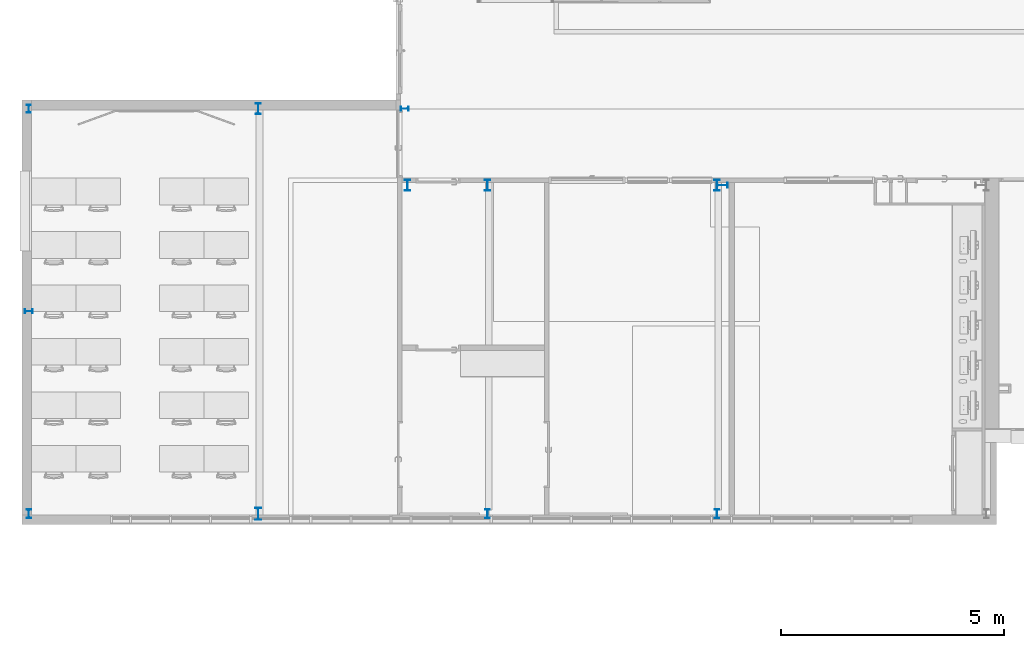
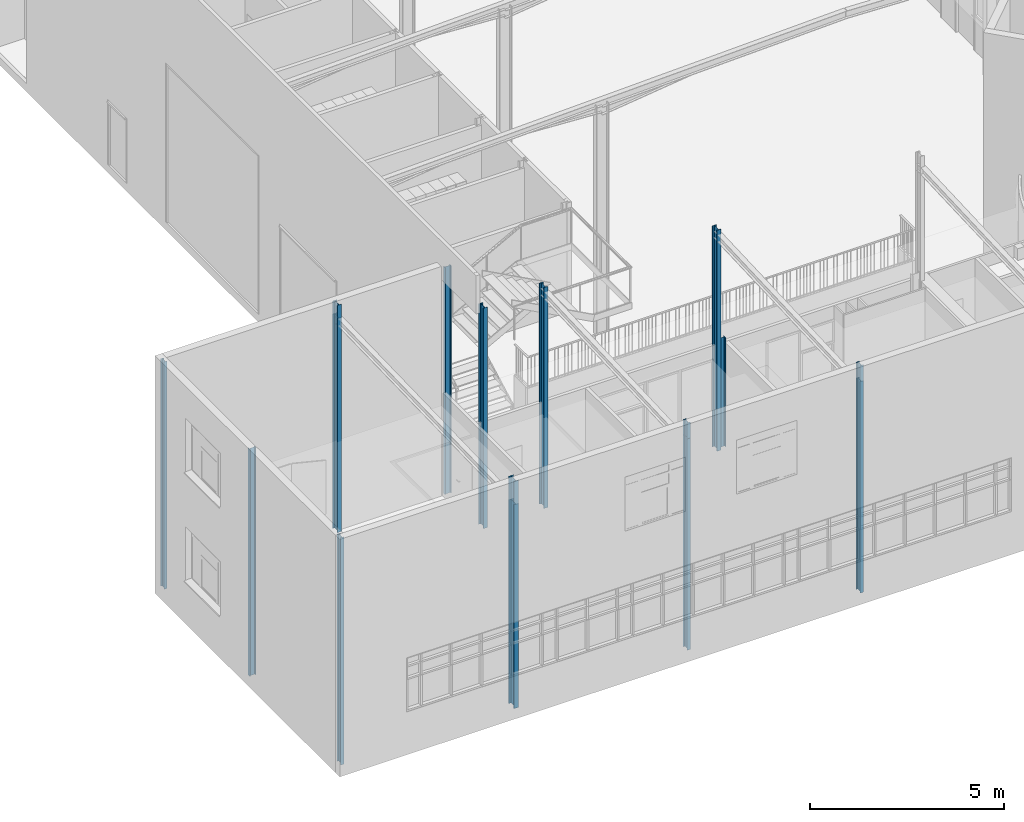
# One storey, part 1 of 137: 16 columns.
"""IFC2X3 building model written with IfcOpenShell, lengths in centimetres."""

from ifc_helpers import new_model, entity, si_unit, converted_unit, derived_unit, direction, frame, frame_2d, origin, place, context, subcontext, project, spatial, polyline, circle_curve, parameter, trimmed, segment, composite_curve, outline, extrude, source, transform, mapped, material, type_object, type_shapes, element, save


model = new_model("IFC2X3")

# Units and contexts
model_context = context("Model", 3, precision=0.001, world=origin(), true_north=direction((6.12303176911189e-17, 1.0)))
body_context = subcontext(model_context, "Body", "Model", "MODEL_VIEW")
ifc_project = project(units=[si_unit("LENGTHUNIT", "METRE", prefix="CENTI"), si_unit("AREAUNIT", "SQUARE_METRE"), si_unit("VOLUMEUNIT", "CUBIC_METRE"), converted_unit("PLANEANGLEUNIT", "DEGREE", entity("IfcRatioMeasure", 0.0174532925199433), si_unit("PLANEANGLEUNIT", "RADIAN"), dimensions=[0, 0, 0, 0, 0, 0, 0]), si_unit("MASSUNIT", "GRAM", prefix="KILO"), si_unit("TIMEUNIT", "SECOND"), si_unit("FREQUENCYUNIT", "HERTZ"), si_unit("THERMODYNAMICTEMPERATUREUNIT", "DEGREE_CELSIUS"), derived_unit("THERMALTRANSMITTANCEUNIT", [(si_unit("MASSUNIT", "GRAM", prefix="KILO"), 1), (si_unit("THERMODYNAMICTEMPERATUREUNIT", "KELVIN"), -1), (si_unit("TIMEUNIT", "SECOND"), -3)]), derived_unit("VOLUMETRICFLOWRATEUNIT", [(si_unit("LENGTHUNIT", "METRE"), 3), (si_unit("TIMEUNIT", "SECOND"), -1)]), si_unit("ELECTRICCURRENTUNIT", "AMPERE"), si_unit("ELECTRICVOLTAGEUNIT", "VOLT"), si_unit("POWERUNIT", "WATT"), si_unit("FORCEUNIT", "NEWTON", prefix="KILO"), si_unit("ILLUMINANCEUNIT", "LUX"), si_unit("LUMINOUSFLUXUNIT", "LUMEN"), si_unit("LUMINOUSINTENSITYUNIT", "CANDELA"), derived_unit("USERDEFINED", [(si_unit("MASSUNIT", "GRAM", prefix="KILO"), -1), (si_unit("LENGTHUNIT", "METRE"), -2), (si_unit("TIMEUNIT", "SECOND"), 3), (si_unit("LUMINOUSFLUXUNIT", "LUMEN"), 1)]), derived_unit("LINEARVELOCITYUNIT", [(si_unit("LENGTHUNIT", "METRE"), 1), (si_unit("TIMEUNIT", "SECOND"), -1)]), si_unit("PRESSUREUNIT", "PASCAL"), derived_unit("USERDEFINED", [(si_unit("LENGTHUNIT", "METRE"), -2), (si_unit("MASSUNIT", "GRAM", prefix="KILO"), 1), (si_unit("TIMEUNIT", "SECOND"), -2)])], contexts=[model_context])

# Site, building, storey
site_placement = place(None, frame((8.62739174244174, -249.285249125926, 0.0)))
site = spatial("IfcSite", under=ifc_project, at=site_placement, Name="Default", CompositionType="ELEMENT")
building_placement = place(site_placement, origin())
building = spatial("IfcBuilding", under=site, at=building_placement, CompositionType="ELEMENT")
storey_placement = place(building_placement, origin())
storey = spatial("IfcBuildingStorey", under=building, at=storey_placement, Name="RDC", CompositionType="ELEMENT", Elevation=-8.82465566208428e-11)

# Columns
ifc_material = material(Name="Acier, 45-345")
column_type_1 = type_object("IfcColumnType", Name="IPE240", PredefinedType="COLUMN", material=ifc_material)
shared_shape_1 = source(origin(), body_context, "Body", "SweptSolid", [
    extrude(outline(composite_curve([segment(polyline([(11.1, -6.0), (12.0, -6.0)]), True, "CONTINUOUS"), segment(polyline([(12.0, -6.0), (12.0, 6.0)]), True, "CONTINUOUS"), segment(polyline([(12.0, 6.0), (11.1, 6.0)]), True, "CONTINUOUS"), segment(polyline([(11.1, 6.0), (11.1, 1.8)]), True, "CONTINUOUS"), segment(trimmed(circle_curve(frame_2d((9.6, 1.79999999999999), x_axis=(1.0, 0.0)), 1.49999999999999), [parameter(269.999999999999)], [parameter(0.0)], True, "PARAMETER"), False, "CONTINUOUS"), segment(polyline([(9.6, 0.3), (-9.59999999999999, 0.3)]), True, "CONTINUOUS"), segment(trimmed(circle_curve(frame_2d((-9.59999999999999, 1.8), x_axis=(0.0, -1.0)), 1.5), [parameter(270.0)], [parameter(0.0)], True, "PARAMETER"), False, "CONTINUOUS"), segment(polyline([(-11.1, 1.8), (-11.1, 6.0)]), True, "CONTINUOUS"), segment(polyline([(-11.1, 6.0), (-12.0, 6.0)]), True, "CONTINUOUS"), segment(polyline([(-12.0, 6.0), (-12.0, -6.0)]), True, "CONTINUOUS"), segment(polyline([(-12.0, -6.0), (-11.1, -6.0)]), True, "CONTINUOUS"), segment(polyline([(-11.1, -6.0), (-11.1, -1.8)]), True, "CONTINUOUS"), segment(trimmed(circle_curve(frame_2d((-9.59999999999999, -1.8), x_axis=(-1.0, 0.0)), 1.5), [parameter(270.0)], [parameter(0.0)], True, "PARAMETER"), False, "CONTINUOUS"), segment(polyline([(-9.6, -0.3), (9.6, -0.3)]), True, "CONTINUOUS"), segment(trimmed(circle_curve(frame_2d((9.6, -1.8), x_axis=(0.0, 1.0)), 1.5), [parameter(270.0)], [parameter(0.0)], True, "PARAMETER"), False, "CONTINUOUS"), segment(polyline([(11.1, -1.8), (11.1, -6.0)]), True, "CONTINUOUS")], self_intersect=False)), frame((0.0, 0.0, 0.0), z_axis=(0.0, 0.0, 1.0), x_axis=(0.0, -1.0, 0.0)), (0.0, 0.0, 1.0), 715.0),
])
type_shapes(column_type_1, [shared_shape_1])
column_1_placement = place(storey_placement, frame((530.900000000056, 933.980208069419, 0.0), z_axis=(0.0, 0.0, 1.0), x_axis=(-1.0, 0.0, 0.0)))
element("IfcColumn", 1, at=column_1_placement, inside=storey, type_object=column_type_1, material=ifc_material, Name="IPE-240-120:IPE240", ObjectType="IPE240", context=body_context, shape_type="MappedRepresentation", body=[
    mapped(shared_shape_1, transform((0.0, 0.0, 0.0), scale=1.0)),
])
column_type_2 = type_object("IfcColumnType", Name="IPE 180", PredefinedType="COLUMN", material=ifc_material)
shared_shape_2 = source(origin(), body_context, "Body", "SweptSolid", [
    extrude(outline(composite_curve([segment(polyline([(8.1, -4.5), (9.0, -4.5)]), True, "CONTINUOUS"), segment(polyline([(9.0, -4.5), (9.0, 4.5)]), True, "CONTINUOUS"), segment(polyline([(9.0, 4.5), (8.1, 4.5)]), True, "CONTINUOUS"), segment(polyline([(8.1, 4.5), (8.1, 1.8)]), True, "CONTINUOUS"), segment(trimmed(circle_curve(frame_2d((6.6, 1.8), x_axis=(1.0, 0.0)), 1.5), [parameter(270.0)], [parameter(0.0)], True, "PARAMETER"), False, "CONTINUOUS"), segment(polyline([(6.60000000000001, 0.300000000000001), (-6.6, 0.300000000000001)]), True, "CONTINUOUS"), segment(trimmed(circle_curve(frame_2d((-6.6, 1.8), x_axis=(0.0, -1.0)), 1.5), [parameter(270.0)], [parameter(0.0)], True, "PARAMETER"), False, "CONTINUOUS"), segment(polyline([(-8.1, 1.8), (-8.1, 4.5)]), True, "CONTINUOUS"), segment(polyline([(-8.1, 4.5), (-9.0, 4.5)]), True, "CONTINUOUS"), segment(polyline([(-9.0, 4.5), (-9.0, -4.5)]), True, "CONTINUOUS"), segment(polyline([(-9.0, -4.5), (-8.1, -4.5)]), True, "CONTINUOUS"), segment(polyline([(-8.1, -4.5), (-8.1, -1.8)]), True, "CONTINUOUS"), segment(trimmed(circle_curve(frame_2d((-6.6, -1.8), x_axis=(-1.0, 0.0)), 1.5), [parameter(270.0)], [parameter(0.0)], True, "PARAMETER"), False, "CONTINUOUS"), segment(polyline([(-6.6, -0.3), (6.6, -0.3)]), True, "CONTINUOUS"), segment(trimmed(circle_curve(frame_2d((6.6, -1.8), x_axis=(0.0, 1.0)), 1.5), [parameter(270.0)], [parameter(0.0)], True, "PARAMETER"), False, "CONTINUOUS"), segment(polyline([(8.1, -1.8), (8.1, -4.5)]), True, "CONTINUOUS")], self_intersect=False)), frame((0.0, 0.0, 0.0), z_axis=(0.0, 0.0, 1.0), x_axis=(0.0, -1.0, 0.0)), (0.0, 0.0, 1.0), 715.0),
])
type_shapes(column_type_2, [shared_shape_2])
for number, where, z_axis, x_axis, name in (
    (2, (15.9000000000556, 933.980208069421, 0.0), (0.0, 0.0, 1.0), (-1.0, 0.0, 0.0), "IPE-180-90:IPE 180"),
    (3, (15.9000000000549, 478.980208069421, 0.0), (0.0, 0.0, 1.0), (0.0, 1.0, 0.0), "IPE-180-90:IPE 180"),
):
    element("IfcColumn", number, at=place(storey_placement, frame(where, z_axis=z_axis, x_axis=x_axis)), inside=storey, type_object=column_type_2, material=ifc_material, Name=name, ObjectType="IPE 180", context=body_context, shape_type="MappedRepresentation", body=[
        mapped(shared_shape_2, transform((0.0, 0.0, 0.0), scale=1.0)),
    ])
column_type_3 = type_object("IfcColumnType", Name="IPE200", PredefinedType="COLUMN", material=ifc_material)
shared_shape_3 = source(origin(), body_context, "Body", "SweptSolid", [
    extrude(outline(composite_curve([segment(polyline([(9.1, -5.0), (10.0, -5.0)]), True, "CONTINUOUS"), segment(polyline([(10.0, -5.0), (10.0, 5.0)]), True, "CONTINUOUS"), segment(polyline([(10.0, 5.0), (9.1, 5.0)]), True, "CONTINUOUS"), segment(polyline([(9.1, 5.0), (9.1, 1.8)]), True, "CONTINUOUS"), segment(trimmed(circle_curve(frame_2d((7.6, 1.8), x_axis=(1.0, 0.0)), 1.5), [parameter(270.0)], [parameter(0.0)], True, "PARAMETER"), False, "CONTINUOUS"), segment(polyline([(7.60000000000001, 0.3), (-7.6, 0.3)]), True, "CONTINUOUS"), segment(trimmed(circle_curve(frame_2d((-7.6, 1.8), x_axis=(0.0, -1.0)), 1.5), [parameter(270.0)], [parameter(0.0)], True, "PARAMETER"), False, "CONTINUOUS"), segment(polyline([(-9.1, 1.8), (-9.1, 5.0)]), True, "CONTINUOUS"), segment(polyline([(-9.1, 5.0), (-10.0, 5.0)]), True, "CONTINUOUS"), segment(polyline([(-10.0, 5.0), (-10.0, -5.0)]), True, "CONTINUOUS"), segment(polyline([(-10.0, -5.0), (-9.1, -5.0)]), True, "CONTINUOUS"), segment(polyline([(-9.1, -5.0), (-9.1, -1.8)]), True, "CONTINUOUS"), segment(trimmed(circle_curve(frame_2d((-7.6, -1.8), x_axis=(-1.0, 0.0)), 1.5), [parameter(270.0)], [parameter(0.0)], True, "PARAMETER"), False, "CONTINUOUS"), segment(polyline([(-7.6, -0.3), (7.6, -0.3)]), True, "CONTINUOUS"), segment(trimmed(circle_curve(frame_2d((7.6, -1.8), x_axis=(0.0, 1.0)), 1.5), [parameter(270.0)], [parameter(0.0)], True, "PARAMETER"), False, "CONTINUOUS"), segment(polyline([(9.1, -1.8), (9.1, -5.0)]), True, "CONTINUOUS")], self_intersect=False)), frame((0.0, 0.0, 0.0), z_axis=(0.0, 0.0, 1.0), x_axis=(0.0, -1.0, 0.0)), (0.0, 0.0, 1.0), 715.0),
])
type_shapes(column_type_3, [shared_shape_3])
for number, where in (
    (4, (15.9000000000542, 23.9802080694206, 0.0)),
    (5, (1045.90000000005, 23.9802080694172, 0.0)),
    (6, (1560.90000000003, 23.9802080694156, 0.0)),
):
    element("IfcColumn", number, at=place(storey_placement, frame(where)), inside=storey, type_object=column_type_3, material=ifc_material, Name="IPE-200-100:IPE200", ObjectType="IPE200", context=body_context, shape_type="MappedRepresentation", body=[
        mapped(shared_shape_3, transform((0.0, 0.0, 0.0), scale=1.0)),
    ])
column_type_4 = type_object("IfcColumnType", Name="IPE 270", PredefinedType="COLUMN", material=ifc_material)
shared_shape_4 = source(origin(), body_context, "Body", "SweptSolid", [
    extrude(outline(composite_curve([segment(polyline([(12.6, -6.75), (13.5, -6.75)]), True, "CONTINUOUS"), segment(polyline([(13.5, -6.75), (13.5, 6.75)]), True, "CONTINUOUS"), segment(polyline([(13.5, 6.75), (12.6, 6.75)]), True, "CONTINUOUS"), segment(polyline([(12.6, 6.75), (12.6, 1.8)]), True, "CONTINUOUS"), segment(trimmed(circle_curve(frame_2d((11.1, 1.8), x_axis=(1.0, 0.0)), 1.5), [parameter(270.0)], [parameter(0.0)], True, "PARAMETER"), False, "CONTINUOUS"), segment(polyline([(11.1, 0.3), (-11.1, 0.3)]), True, "CONTINUOUS"), segment(trimmed(circle_curve(frame_2d((-11.1, 1.8), x_axis=(0.0, -1.0)), 1.5), [parameter(270.0)], [parameter(0.0)], True, "PARAMETER"), False, "CONTINUOUS"), segment(polyline([(-12.6, 1.8), (-12.6, 6.75)]), True, "CONTINUOUS"), segment(polyline([(-12.6, 6.75), (-13.5, 6.75)]), True, "CONTINUOUS"), segment(polyline([(-13.5, 6.75), (-13.5, -6.75)]), True, "CONTINUOUS"), segment(polyline([(-13.5, -6.75), (-12.6, -6.75)]), True, "CONTINUOUS"), segment(polyline([(-12.6, -6.75), (-12.6, -1.8)]), True, "CONTINUOUS"), segment(trimmed(circle_curve(frame_2d((-11.1, -1.8), x_axis=(-1.0, 0.0)), 1.5), [parameter(270.0)], [parameter(0.0)], True, "PARAMETER"), False, "CONTINUOUS"), segment(polyline([(-11.1, -0.3), (11.1, -0.3)]), True, "CONTINUOUS"), segment(trimmed(circle_curve(frame_2d((11.1, -1.8), x_axis=(0.0, 1.0)), 1.5), [parameter(270.0)], [parameter(0.0)], True, "PARAMETER"), False, "CONTINUOUS"), segment(polyline([(12.6, -1.8), (12.6, -6.75)]), True, "CONTINUOUS")], self_intersect=False)), frame((0.0, 0.0, 0.0), z_axis=(0.0, 0.0, 1.0), x_axis=(0.0, -1.0, 0.0)), (0.0, 0.0, 1.0), 715.0),
])
type_shapes(column_type_4, [shared_shape_4])
column_2_placement = place(storey_placement, frame((530.900000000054, 23.9802080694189, 0.0)))
element("IfcColumn", 7, at=column_2_placement, inside=storey, type_object=column_type_4, material=ifc_material, Name="IPE-270-135:IPE 270", ObjectType="IPE 270", context=body_context, shape_type="MappedRepresentation", body=[
    mapped(shared_shape_4, transform((0.0, 0.0, 0.0), scale=1.0)),
])
column_type_5 = type_object("IfcColumnType", Name="HEA160", PredefinedType="COLUMN", material=ifc_material)
shared_shape_5 = source(origin(), body_context, "Body", "SweptSolid", [
    extrude(outline(composite_curve([segment(polyline([(11.1, -6.0), (12.0, -6.0)]), True, "CONTINUOUS"), segment(polyline([(12.0, -6.0), (12.0, 6.0)]), True, "CONTINUOUS"), segment(polyline([(12.0, 6.0), (11.1, 6.0)]), True, "CONTINUOUS"), segment(polyline([(11.1, 6.0), (11.1, 1.8)]), True, "CONTINUOUS"), segment(trimmed(circle_curve(frame_2d((9.6, 1.79999999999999), x_axis=(1.0, 0.0)), 1.49999999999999), [parameter(269.999999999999)], [parameter(0.0)], True, "PARAMETER"), False, "CONTINUOUS"), segment(polyline([(9.6, 0.3), (-9.59999999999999, 0.3)]), True, "CONTINUOUS"), segment(trimmed(circle_curve(frame_2d((-9.59999999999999, 1.8), x_axis=(0.0, -1.0)), 1.5), [parameter(270.0)], [parameter(0.0)], True, "PARAMETER"), False, "CONTINUOUS"), segment(polyline([(-11.1, 1.8), (-11.1, 6.0)]), True, "CONTINUOUS"), segment(polyline([(-11.1, 6.0), (-12.0, 6.0)]), True, "CONTINUOUS"), segment(polyline([(-12.0, 6.0), (-12.0, -6.0)]), True, "CONTINUOUS"), segment(polyline([(-12.0, -6.0), (-11.1, -6.0)]), True, "CONTINUOUS"), segment(polyline([(-11.1, -6.0), (-11.1, -1.8)]), True, "CONTINUOUS"), segment(trimmed(circle_curve(frame_2d((-9.59999999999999, -1.8), x_axis=(-1.0, 0.0)), 1.5), [parameter(270.0)], [parameter(0.0)], True, "PARAMETER"), False, "CONTINUOUS"), segment(polyline([(-9.6, -0.3), (9.6, -0.3)]), True, "CONTINUOUS"), segment(trimmed(circle_curve(frame_2d((9.6, -1.8), x_axis=(0.0, 1.0)), 1.5), [parameter(270.0)], [parameter(0.0)], True, "PARAMETER"), False, "CONTINUOUS"), segment(polyline([(11.1, -1.8), (11.1, -6.0)]), True, "CONTINUOUS")], self_intersect=False)), frame((0.0, 0.0, 0.0), z_axis=(0.0, 0.0, 1.0), x_axis=(0.0, -1.0, 0.0)), (0.0, 0.0, 1.0), 343.0),
])
type_shapes(column_type_5, [shared_shape_5])
column_3_placement = place(storey_placement, frame((1573.20000000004, 761.980208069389, 0.0), z_axis=(0.0, 0.0, 1.0), x_axis=(0.0, 1.0, 0.0)))
element("IfcColumn", 8, at=column_3_placement, inside=storey, type_object=column_type_5, material=ifc_material, Name="IPE-240-120:HEA160", ObjectType="HEA160", context=body_context, shape_type="MappedRepresentation", body=[
    mapped(shared_shape_5, transform((0.0, 0.0, 0.0), scale=1.0)),
])
column_type_6 = type_object("IfcColumnType", Name="HEA160", PredefinedType="COLUMN", material=ifc_material)
shared_shape_6 = source(origin(), body_context, "Body", "SweptSolid", [
    extrude(outline(composite_curve([segment(polyline([(11.1, -6.0), (12.0, -6.0)]), True, "CONTINUOUS"), segment(polyline([(12.0, -6.0), (12.0, 6.0)]), True, "CONTINUOUS"), segment(polyline([(12.0, 6.0), (11.1, 6.0)]), True, "CONTINUOUS"), segment(polyline([(11.1, 6.0), (11.1, 1.8)]), True, "CONTINUOUS"), segment(trimmed(circle_curve(frame_2d((9.6, 1.79999999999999), x_axis=(1.0, 0.0)), 1.49999999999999), [parameter(269.999999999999)], [parameter(0.0)], True, "PARAMETER"), False, "CONTINUOUS"), segment(polyline([(9.6, 0.3), (-9.59999999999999, 0.3)]), True, "CONTINUOUS"), segment(trimmed(circle_curve(frame_2d((-9.59999999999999, 1.8), x_axis=(0.0, -1.0)), 1.5), [parameter(270.0)], [parameter(0.0)], True, "PARAMETER"), False, "CONTINUOUS"), segment(polyline([(-11.1, 1.8), (-11.1, 6.0)]), True, "CONTINUOUS"), segment(polyline([(-11.1, 6.0), (-12.0, 6.0)]), True, "CONTINUOUS"), segment(polyline([(-12.0, 6.0), (-12.0, -6.0)]), True, "CONTINUOUS"), segment(polyline([(-12.0, -6.0), (-11.1, -6.0)]), True, "CONTINUOUS"), segment(polyline([(-11.1, -6.0), (-11.1, -1.8)]), True, "CONTINUOUS"), segment(trimmed(circle_curve(frame_2d((-9.59999999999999, -1.8), x_axis=(-1.0, 0.0)), 1.5), [parameter(270.0)], [parameter(0.0)], True, "PARAMETER"), False, "CONTINUOUS"), segment(polyline([(-9.6, -0.3), (9.6, -0.3)]), True, "CONTINUOUS"), segment(trimmed(circle_curve(frame_2d((9.6, -1.8), x_axis=(0.0, 1.0)), 1.5), [parameter(270.0)], [parameter(0.0)], True, "PARAMETER"), False, "CONTINUOUS"), segment(polyline([(11.1, -1.8), (11.1, -6.0)]), True, "CONTINUOUS")], self_intersect=False)), frame((0.0, 0.0, 0.0), z_axis=(0.0, 0.0, 1.0), x_axis=(0.0, -1.0, 0.0)), (0.0, 0.0, 1.0), 695.0),
])
type_shapes(column_type_6, [shared_shape_6])
for number, where, z_axis, x_axis in (
    (9, (1560.90000000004, 761.980208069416, 0.0), (0.0, 0.0, 1.0), (-1.0, 0.0, 0.0)),
    (10, (1045.90000000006, 761.980208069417, 0.0), (0.0, 0.0, 1.0), (-1.0, 0.0, 0.0)),
):
    element("IfcColumn", number, at=place(storey_placement, frame(where, z_axis=z_axis, x_axis=x_axis)), inside=storey, type_object=column_type_6, material=ifc_material, Name="IPE-240-120:HEA160", ObjectType="HEA160", context=body_context, shape_type="MappedRepresentation", body=[
        mapped(shared_shape_6, transform((0.0, 0.0, 0.0), scale=1.0)),
    ])
column_type_7 = type_object("IfcColumnType", Name="HEA160", PredefinedType="COLUMN", material=ifc_material)
shared_shape_7 = source(origin(), body_context, "Body", "SweptSolid", [
    extrude(outline(composite_curve([segment(polyline([(11.1, -6.0), (12.0, -6.0)]), True, "CONTINUOUS"), segment(polyline([(12.0, -6.0), (12.0, 6.0)]), True, "CONTINUOUS"), segment(polyline([(12.0, 6.0), (11.1, 6.0)]), True, "CONTINUOUS"), segment(polyline([(11.1, 6.0), (11.1, 1.8)]), True, "CONTINUOUS"), segment(trimmed(circle_curve(frame_2d((9.6, 1.79999999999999), x_axis=(1.0, 0.0)), 1.49999999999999), [parameter(269.999999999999)], [parameter(0.0)], True, "PARAMETER"), False, "CONTINUOUS"), segment(polyline([(9.6, 0.3), (-9.59999999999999, 0.3)]), True, "CONTINUOUS"), segment(trimmed(circle_curve(frame_2d((-9.59999999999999, 1.8), x_axis=(0.0, -1.0)), 1.5), [parameter(270.0)], [parameter(0.0)], True, "PARAMETER"), False, "CONTINUOUS"), segment(polyline([(-11.1, 1.8), (-11.1, 6.0)]), True, "CONTINUOUS"), segment(polyline([(-11.1, 6.0), (-12.0, 6.0)]), True, "CONTINUOUS"), segment(polyline([(-12.0, 6.0), (-12.0, -6.0)]), True, "CONTINUOUS"), segment(polyline([(-12.0, -6.0), (-11.1, -6.0)]), True, "CONTINUOUS"), segment(polyline([(-11.1, -6.0), (-11.1, -1.8)]), True, "CONTINUOUS"), segment(trimmed(circle_curve(frame_2d((-9.59999999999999, -1.8), x_axis=(-1.0, 0.0)), 1.5), [parameter(270.0)], [parameter(0.0)], True, "PARAMETER"), False, "CONTINUOUS"), segment(polyline([(-9.6, -0.3), (9.6, -0.3)]), True, "CONTINUOUS"), segment(trimmed(circle_curve(frame_2d((9.6, -1.8), x_axis=(0.0, 1.0)), 1.5), [parameter(270.0)], [parameter(0.0)], True, "PARAMETER"), False, "CONTINUOUS"), segment(polyline([(11.1, -1.8), (11.1, -6.0)]), True, "CONTINUOUS")], self_intersect=False)), frame((0.0, 0.0, 0.0), z_axis=(0.0, 0.0, 1.0), x_axis=(0.0, -1.0, 0.0)), (0.0, 0.0, 1.0), 674.0),
])
type_shapes(column_type_7, [shared_shape_7])
column_4_placement = place(storey_placement, frame((530.900000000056, 933.980208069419, 0.0), z_axis=(0.0, 0.0, 1.0), x_axis=(-1.0, 0.0, 0.0)))
element("IfcColumn", 11, at=column_4_placement, inside=storey, type_object=column_type_7, material=ifc_material, Name="IPE-240-120:HEA160", ObjectType="HEA160", context=body_context, shape_type="MappedRepresentation", body=[
    mapped(shared_shape_7, transform((0.0, 0.0, 0.0), scale=1.0)),
])
column_type_8 = type_object("IfcColumnType", Name="HEA160", PredefinedType="COLUMN", material=ifc_material)
shared_shape_8 = source(origin(), body_context, "Body", "SweptSolid", [
    extrude(outline(composite_curve([segment(polyline([(11.1, -6.0), (12.0, -6.0)]), True, "CONTINUOUS"), segment(polyline([(12.0, -6.0), (12.0, 6.0)]), True, "CONTINUOUS"), segment(polyline([(12.0, 6.0), (11.1, 6.0)]), True, "CONTINUOUS"), segment(polyline([(11.1, 6.0), (11.1, 1.8)]), True, "CONTINUOUS"), segment(trimmed(circle_curve(frame_2d((9.6, 1.79999999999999), x_axis=(1.0, 0.0)), 1.49999999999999), [parameter(269.999999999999)], [parameter(0.0)], True, "PARAMETER"), False, "CONTINUOUS"), segment(polyline([(9.6, 0.3), (-9.59999999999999, 0.3)]), True, "CONTINUOUS"), segment(trimmed(circle_curve(frame_2d((-9.59999999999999, 1.8), x_axis=(0.0, -1.0)), 1.5), [parameter(270.0)], [parameter(0.0)], True, "PARAMETER"), False, "CONTINUOUS"), segment(polyline([(-11.1, 1.8), (-11.1, 6.0)]), True, "CONTINUOUS"), segment(polyline([(-11.1, 6.0), (-12.0, 6.0)]), True, "CONTINUOUS"), segment(polyline([(-12.0, 6.0), (-12.0, -6.0)]), True, "CONTINUOUS"), segment(polyline([(-12.0, -6.0), (-11.1, -6.0)]), True, "CONTINUOUS"), segment(polyline([(-11.1, -6.0), (-11.1, -1.8)]), True, "CONTINUOUS"), segment(trimmed(circle_curve(frame_2d((-9.59999999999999, -1.8), x_axis=(-1.0, 0.0)), 1.5), [parameter(270.0)], [parameter(0.0)], True, "PARAMETER"), False, "CONTINUOUS"), segment(polyline([(-9.6, -0.3), (9.6, -0.3)]), True, "CONTINUOUS"), segment(trimmed(circle_curve(frame_2d((9.6, -1.8), x_axis=(0.0, 1.0)), 1.5), [parameter(270.0)], [parameter(0.0)], True, "PARAMETER"), False, "CONTINUOUS"), segment(polyline([(11.1, -1.8), (11.1, -6.0)]), True, "CONTINUOUS")], self_intersect=False)), frame((0.0, 0.0, 0.0), z_axis=(0.0, 0.0, 1.0), x_axis=(0.0, -1.0, 0.0)), (0.0, 0.0, 1.0), 693.0),
])
type_shapes(column_type_8, [shared_shape_8])
column_5_placement = place(storey_placement, frame((865.90460695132, 761.980208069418, 0.0), z_axis=(0.0, 0.0, 1.0), x_axis=(-1.0, 0.0, 0.0)))
element("IfcColumn", 12, at=column_5_placement, inside=storey, type_object=column_type_8, material=ifc_material, Name="IPE-240-120:HEA160", ObjectType="HEA160", context=body_context, shape_type="MappedRepresentation", body=[
    mapped(shared_shape_8, transform((0.0, 0.0, 0.0), scale=1.0)),
])
column_type_9 = type_object("IfcColumnType", Name="IPE 270", PredefinedType="COLUMN", material=ifc_material)
shared_shape_9 = source(origin(), body_context, "Body", "SweptSolid", [
    extrude(outline(composite_curve([segment(polyline([(12.6, -6.75), (13.5, -6.75)]), True, "CONTINUOUS"), segment(polyline([(13.5, -6.75), (13.5, 6.75)]), True, "CONTINUOUS"), segment(polyline([(13.5, 6.75), (12.6, 6.75)]), True, "CONTINUOUS"), segment(polyline([(12.6, 6.75), (12.6, 1.8)]), True, "CONTINUOUS"), segment(trimmed(circle_curve(frame_2d((11.1, 1.8), x_axis=(1.0, 0.0)), 1.5), [parameter(270.0)], [parameter(0.0)], True, "PARAMETER"), False, "CONTINUOUS"), segment(polyline([(11.1, 0.3), (-11.1, 0.3)]), True, "CONTINUOUS"), segment(trimmed(circle_curve(frame_2d((-11.1, 1.8), x_axis=(0.0, -1.0)), 1.5), [parameter(270.0)], [parameter(0.0)], True, "PARAMETER"), False, "CONTINUOUS"), segment(polyline([(-12.6, 1.8), (-12.6, 6.75)]), True, "CONTINUOUS"), segment(polyline([(-12.6, 6.75), (-13.5, 6.75)]), True, "CONTINUOUS"), segment(polyline([(-13.5, 6.75), (-13.5, -6.75)]), True, "CONTINUOUS"), segment(polyline([(-13.5, -6.75), (-12.6, -6.75)]), True, "CONTINUOUS"), segment(polyline([(-12.6, -6.75), (-12.6, -1.8)]), True, "CONTINUOUS"), segment(trimmed(circle_curve(frame_2d((-11.1, -1.8), x_axis=(-1.0, 0.0)), 1.5), [parameter(270.0)], [parameter(0.0)], True, "PARAMETER"), False, "CONTINUOUS"), segment(polyline([(-11.1, -0.3), (11.1, -0.3)]), True, "CONTINUOUS"), segment(trimmed(circle_curve(frame_2d((11.1, -1.8), x_axis=(0.0, 1.0)), 1.5), [parameter(270.0)], [parameter(0.0)], True, "PARAMETER"), False, "CONTINUOUS"), segment(polyline([(12.6, -1.8), (12.6, -6.75)]), True, "CONTINUOUS")], self_intersect=False)), frame((0.0, 0.0, 0.0), z_axis=(0.0, 0.0, 1.0), x_axis=(0.0, -1.0, 0.0)), (0.0, 0.0, 1.0), 641.0),
])
type_shapes(column_type_9, [shared_shape_9])
column_6_placement = place(storey_placement, frame((530.900000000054, 23.9802080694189, 0.0)))
element("IfcColumn", 13, at=column_6_placement, inside=storey, type_object=column_type_9, material=ifc_material, Name="IPE-270-135:IPE 270", ObjectType="IPE 270", context=body_context, shape_type="MappedRepresentation", body=[
    mapped(shared_shape_9, transform((0.0, 0.0, 0.0), scale=1.0)),
])
column_type_10 = type_object("IfcColumnType", Name="HEA160", PredefinedType="COLUMN", material=ifc_material)
shared_shape_10 = source(origin(), body_context, "Body", "SweptSolid", [
    extrude(outline(composite_curve([segment(polyline([(9.1, -5.0), (10.0, -5.0)]), True, "CONTINUOUS"), segment(polyline([(10.0, -5.0), (10.0, 5.0)]), True, "CONTINUOUS"), segment(polyline([(10.0, 5.0), (9.1, 5.0)]), True, "CONTINUOUS"), segment(polyline([(9.1, 5.0), (9.1, 1.8)]), True, "CONTINUOUS"), segment(trimmed(circle_curve(frame_2d((7.6, 1.8), x_axis=(1.0, 0.0)), 1.5), [parameter(270.0)], [parameter(0.0)], True, "PARAMETER"), False, "CONTINUOUS"), segment(polyline([(7.60000000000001, 0.3), (-7.6, 0.3)]), True, "CONTINUOUS"), segment(trimmed(circle_curve(frame_2d((-7.6, 1.8), x_axis=(0.0, -1.0)), 1.5), [parameter(270.0)], [parameter(0.0)], True, "PARAMETER"), False, "CONTINUOUS"), segment(polyline([(-9.1, 1.8), (-9.1, 5.0)]), True, "CONTINUOUS"), segment(polyline([(-9.1, 5.0), (-10.0, 5.0)]), True, "CONTINUOUS"), segment(polyline([(-10.0, 5.0), (-10.0, -5.0)]), True, "CONTINUOUS"), segment(polyline([(-10.0, -5.0), (-9.1, -5.0)]), True, "CONTINUOUS"), segment(polyline([(-9.1, -5.0), (-9.1, -1.8)]), True, "CONTINUOUS"), segment(trimmed(circle_curve(frame_2d((-7.6, -1.8), x_axis=(-1.0, 0.0)), 1.5), [parameter(270.0)], [parameter(0.0)], True, "PARAMETER"), False, "CONTINUOUS"), segment(polyline([(-7.6, -0.3), (7.6, -0.3)]), True, "CONTINUOUS"), segment(trimmed(circle_curve(frame_2d((7.6, -1.8), x_axis=(0.0, 1.0)), 1.5), [parameter(270.0)], [parameter(0.0)], True, "PARAMETER"), False, "CONTINUOUS"), segment(polyline([(9.1, -1.8), (9.1, -5.0)]), True, "CONTINUOUS")], self_intersect=False)), frame((0.0, 0.0, 0.0), z_axis=(0.0, 0.0, 1.0), x_axis=(0.0, -1.0, 0.0)), (0.0, 0.0, 1.0), 665.0),
])
type_shapes(column_type_10, [shared_shape_10])
for number, where in (
    (14, (1045.90000000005, 23.9802080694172, 0.0)),
    (15, (1560.90000000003, 23.9802080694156, 0.0)),
):
    element("IfcColumn", number, at=place(storey_placement, frame(where)), inside=storey, type_object=column_type_10, material=ifc_material, Name="IPE-200-100:HEA160", ObjectType="HEA160", context=body_context, shape_type="MappedRepresentation", body=[
        mapped(shared_shape_10, transform((0.0, 0.0, 0.0), scale=1.0)),
    ])
column_type_11 = type_object("IfcColumnType", Name="IPE 180", PredefinedType="COLUMN", material=ifc_material)
shared_shape_11 = source(origin(), body_context, "Body", "SweptSolid", [
    extrude(outline(composite_curve([segment(polyline([(8.1, -4.5), (9.0, -4.5)]), True, "CONTINUOUS"), segment(polyline([(9.0, -4.5), (9.0, 4.5)]), True, "CONTINUOUS"), segment(polyline([(9.0, 4.5), (8.1, 4.5)]), True, "CONTINUOUS"), segment(polyline([(8.1, 4.5), (8.1, 1.8)]), True, "CONTINUOUS"), segment(trimmed(circle_curve(frame_2d((6.6, 1.8), x_axis=(1.0, 0.0)), 1.5), [parameter(270.0)], [parameter(0.0)], True, "PARAMETER"), False, "CONTINUOUS"), segment(polyline([(6.60000000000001, 0.300000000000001), (-6.6, 0.300000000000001)]), True, "CONTINUOUS"), segment(trimmed(circle_curve(frame_2d((-6.6, 1.8), x_axis=(0.0, -1.0)), 1.5), [parameter(270.0)], [parameter(0.0)], True, "PARAMETER"), False, "CONTINUOUS"), segment(polyline([(-8.1, 1.8), (-8.1, 4.5)]), True, "CONTINUOUS"), segment(polyline([(-8.1, 4.5), (-9.0, 4.5)]), True, "CONTINUOUS"), segment(polyline([(-9.0, 4.5), (-9.0, -4.5)]), True, "CONTINUOUS"), segment(polyline([(-9.0, -4.5), (-8.1, -4.5)]), True, "CONTINUOUS"), segment(polyline([(-8.1, -4.5), (-8.1, -1.8)]), True, "CONTINUOUS"), segment(trimmed(circle_curve(frame_2d((-6.6, -1.8), x_axis=(-1.0, 0.0)), 1.5), [parameter(270.0)], [parameter(0.0)], True, "PARAMETER"), False, "CONTINUOUS"), segment(polyline([(-6.6, -0.3), (6.6, -0.3)]), True, "CONTINUOUS"), segment(trimmed(circle_curve(frame_2d((6.6, -1.8), x_axis=(0.0, 1.0)), 1.5), [parameter(270.0)], [parameter(0.0)], True, "PARAMETER"), False, "CONTINUOUS"), segment(polyline([(8.1, -1.8), (8.1, -4.5)]), True, "CONTINUOUS")], self_intersect=False)), frame((0.0, 0.0, 0.0), z_axis=(0.0, 0.0, 1.0), x_axis=(0.0, -1.0, 0.0)), (0.0, 0.0, 1.0), 714.699999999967),
])
type_shapes(column_type_11, [shared_shape_11])
column_7_placement = place(storey_placement, frame((859.904827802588, 933.980208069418, 0.0), z_axis=(0.0, 0.0, 1.0), x_axis=(0.0, -1.0, 0.0)))
element("IfcColumn", 16, at=column_7_placement, inside=storey, type_object=column_type_11, material=ifc_material, Name="IPE-180-90:IPE 180", ObjectType="IPE 180", context=body_context, shape_type="MappedRepresentation", body=[
    mapped(shared_shape_11, transform((0.0, 0.0, 0.0), scale=1.0)),
])

save(model, "model.ifc")
